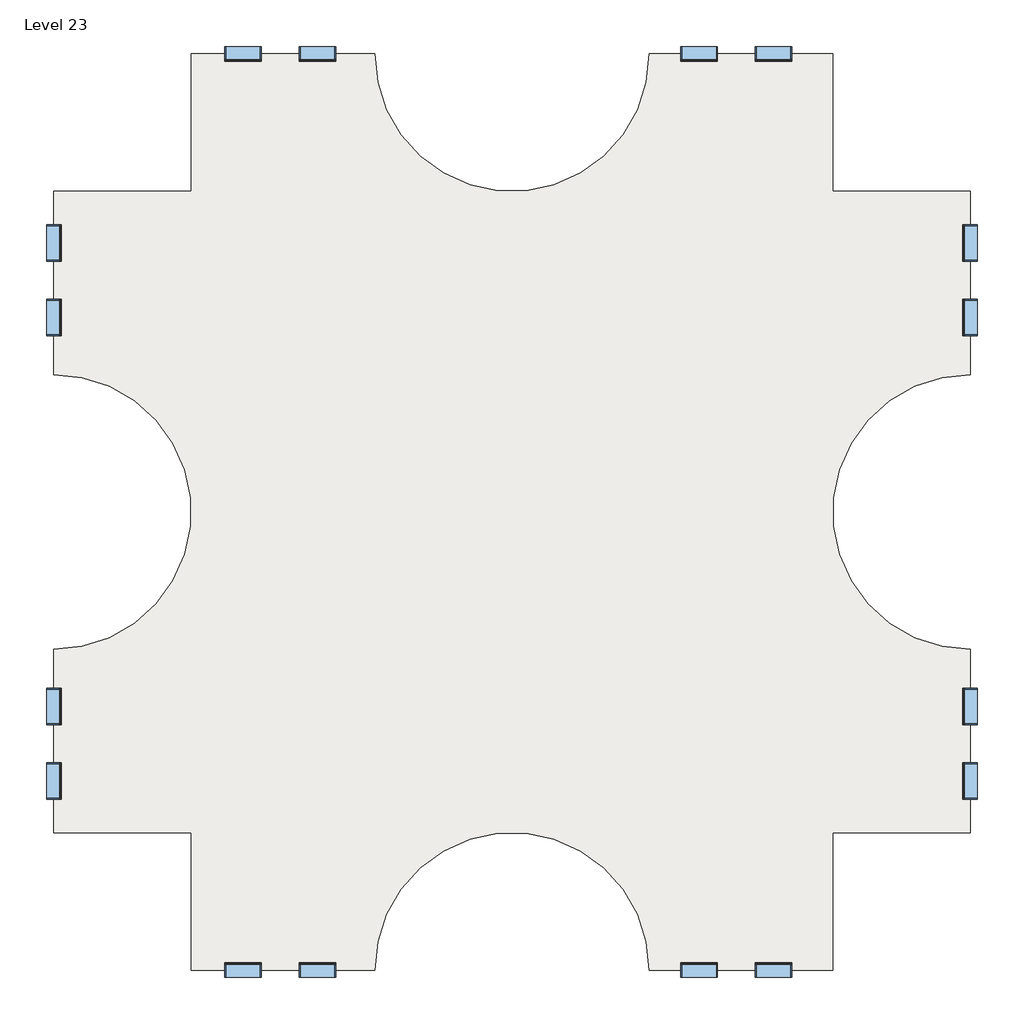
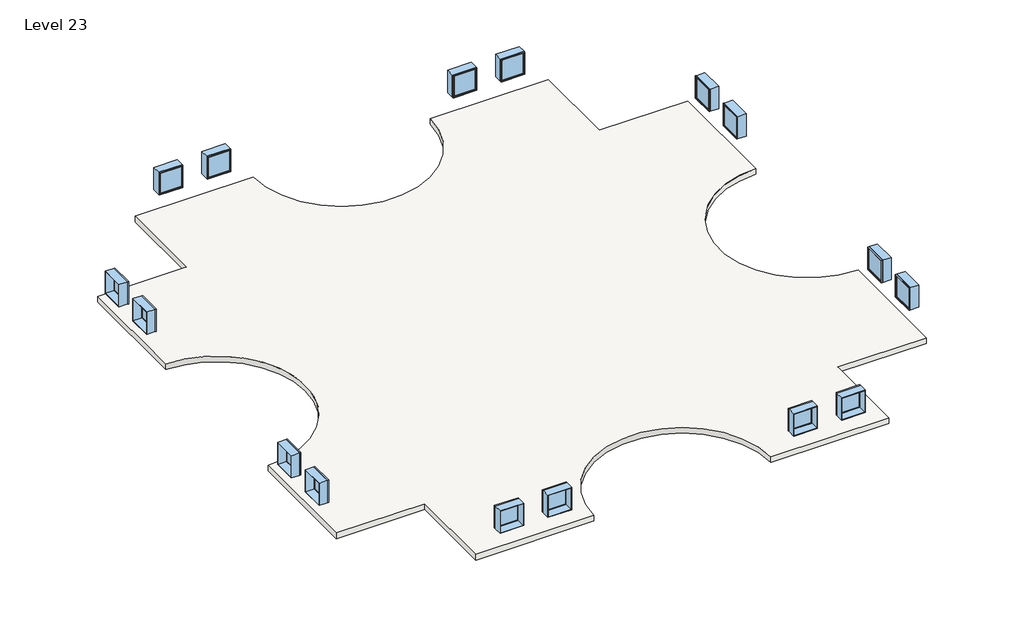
# One storey: 16 windows, 2 slabs.
"""IFC4 building model written with IfcOpenShell, lengths in millimetres."""

from ifc_helpers import new_model, si_unit, point, frame, frame_2d, origin, place, context, project, spatial, polyline, circle_curve, trimmed, segment, composite_curve, outline, extrude, transform, mapped, element, save
from components import window_d0035ecf, window_d434eb62

model = new_model("IFC4")

# Units and contexts
model_context = context("Model", 3, world=origin())
ifc_project = project(units=[si_unit("LENGTHUNIT", "METRE", prefix="MILLI")], contexts=[model_context])

# Site, building, storey
site = spatial("IfcSite", under=ifc_project)
building = spatial("IfcBuilding", under=site)
storey = spatial("IfcBuildingStorey", under=building, Name="Level 23", Elevation=67056.0)

# Slabs
placement = place(None, origin())
element("IfcSlab", 1, ObjectType="Generic - 12\"", at=placement, inside=storey, context=model_context, shape_type="SweptSolid", body=[
    extrude(outline(composite_curve([segment(polyline([(-7150.3629456, 4479.6634547), (-7150.3629456, 9051.6634547), (-1054.3629456, 9051.6634547)]), True, "CONTINUOUS"), segment(trimmed(circle_curve(frame_2d((3517.6370544, 9051.6634547)), 4572.0), [point((-1054.3629456, 9051.6634547))], [point((8089.6370544, 9051.6634547))], True, "CARTESIAN"), True, "CONTINUOUS"), segment(polyline([(8089.6370544, 9051.6634547), (14185.6370544, 9051.6634547), (14185.6370544, 4479.6634547), (18757.6370544, 4479.6634547), (18757.6370544, -1616.3365453)]), True, "CONTINUOUS"), segment(trimmed(circle_curve(frame_2d((18757.6370544, -6188.3365453)), 4572.0), [point((18757.6370544, -1616.3365453))], [point((18757.6370544, -10760.3365453))], True, "CARTESIAN"), True, "CONTINUOUS"), segment(polyline([(18757.6370544, -10760.3365453), (18757.6370544, -16856.3365453), (14185.6370544, -16856.3365453), (14185.6370544, -21428.3365453), (8089.6370544, -21428.3365453)]), True, "CONTINUOUS"), segment(trimmed(circle_curve(frame_2d((3517.6370544, -21428.3365453)), 4572.0), [point((8089.6370544, -21428.3365453))], [point((-1054.3629456, -21428.3365453))], True, "CARTESIAN"), True, "CONTINUOUS"), segment(polyline([(-1054.3629456, -21428.3365453), (-7150.3629456, -21428.3365453), (-7150.3629456, -16856.3365453), (-11722.3629456, -16856.3365453), (-11722.3629456, -10760.3365453)]), True, "CONTINUOUS"), segment(trimmed(circle_curve(frame_2d((-11722.3629456, -6188.3365453)), 4572.0), [point((-11722.3629456, -10760.3365453))], [point((-11722.3629456, -1616.3365453))], True, "CARTESIAN"), True, "CONTINUOUS"), segment(polyline([(-11722.3629456, -1616.3365453), (-11722.3629456, 4479.6634547), (-7150.3629456, 4479.6634547)]), True, "CONTINUOUS")], self_intersect=False)), frame((0.0, 0.0, 66751.2), z_axis=(0.0, 0.0, 1.0), x_axis=(1.0, 0.0, 0.0)), (0.0, 0.0, 1.0), 304.8),
])
element("IfcSlab", 2, ObjectType="Generic - 12\"", at=placement, inside=storey, context=model_context, shape_type="SweptSolid", body=[
    extrude(outline(composite_curve([segment(polyline([(-7150.3629456, 4479.6634547), (-7150.3629456, 9051.6634547), (-1054.3629456, 9051.6634547)]), True, "CONTINUOUS"), segment(trimmed(circle_curve(frame_2d((3517.6370544, 9051.6634547)), 4572.0), [point((-1054.3629456, 9051.6634547))], [point((8089.6370544, 9051.6634547))], True, "CARTESIAN"), True, "CONTINUOUS"), segment(polyline([(8089.6370544, 9051.6634547), (14185.6370544, 9051.6634547), (14185.6370544, 4479.6634547), (18757.6370544, 4479.6634547), (18757.6370544, -1616.3365453)]), True, "CONTINUOUS"), segment(trimmed(circle_curve(frame_2d((18757.6370544, -6188.3365453)), 4572.0), [point((18757.6370544, -1616.3365453))], [point((18757.6370544, -10760.3365453))], True, "CARTESIAN"), True, "CONTINUOUS"), segment(polyline([(18757.6370544, -10760.3365453), (18757.6370544, -16856.3365453), (14185.6370544, -16856.3365453), (14185.6370544, -21428.3365453), (8089.6370544, -21428.3365453)]), True, "CONTINUOUS"), segment(trimmed(circle_curve(frame_2d((3517.6370544, -21428.3365453)), 4572.0), [point((8089.6370544, -21428.3365453))], [point((-1054.3629456, -21428.3365453))], True, "CARTESIAN"), True, "CONTINUOUS"), segment(polyline([(-1054.3629456, -21428.3365453), (-7150.3629456, -21428.3365453), (-7150.3629456, -16856.3365453), (-11722.3629456, -16856.3365453), (-11722.3629456, -10760.3365453)]), True, "CONTINUOUS"), segment(trimmed(circle_curve(frame_2d((-11722.3629456, -6188.3365453)), 4572.0), [point((-11722.3629456, -10760.3365453))], [point((-11722.3629456, -1616.3365453))], True, "CARTESIAN"), True, "CONTINUOUS"), segment(polyline([(-11722.3629456, -1616.3365453), (-11722.3629456, 4479.6634547), (-7150.3629456, 4479.6634547)]), True, "CONTINUOUS")], self_intersect=False)), frame((0.0, 0.0, 66751.2), z_axis=(0.0, 0.0, 1.0), x_axis=(1.0, 0.0, 0.0)), (0.0, 0.0, 1.0), 304.8),
])

# Windows
window_shape = window_d0035ecf(model_context)
element("IfcWindow", 3, ObjectType="Fixed : 48\" x 48\"", at=placement, inside=storey, context=model_context, shape_type="MappedRepresentation", body=[
    mapped(window_shape, transform((-11719.1879456, 247.3884547, 67056.0), x_axis=(0.0, -1.0, 0.0), y_axis=(1.0, 0.0, 0.0), z_axis=(0.0, 0.0, 1.0))),
])
element("IfcWindow", 4, ObjectType="Fixed : 48\" x 48\"", at=placement, inside=storey, context=model_context, shape_type="MappedRepresentation", body=[
    mapped(window_shape, transform((-5469.1993281, 9048.4884547, 67056.0), x_axis=(-1.0, 0.0, 0.0), y_axis=(0.0, -1.0, 0.0), z_axis=(0.0, 0.0, 1.0))),
])
element("IfcWindow", 5, ObjectType="Fixed : 48\" x 48\"", at=placement, inside=storey, context=model_context, shape_type="MappedRepresentation", body=[
    mapped(window_shape, transform((-11719.1879456, -15175.1729277, 67056.0), x_axis=(0.0, -1.0, 0.0), y_axis=(1.0, 0.0, 0.0), z_axis=(0.0, 0.0, 1.0))),
])
element("IfcWindow", 6, ObjectType="Fixed : 48\" x 48\"", at=placement, inside=storey, context=model_context, shape_type="MappedRepresentation", body=[
    mapped(window_shape, transform((-2918.0879456, -21425.1615453, 67056.0), x_axis=(1.0, 0.0, 0.0), y_axis=(0.0, 1.0, 0.0), z_axis=(0.0, 0.0, 1.0))),
])
element("IfcWindow", 7, ObjectType="Fixed : 48\" x 48\"", at=placement, inside=storey, context=model_context, shape_type="MappedRepresentation", body=[
    mapped(window_shape, transform((18754.4620544, 2798.4998372, 67056.0), x_axis=(0.0, 1.0, 0.0), y_axis=(-1.0, 0.0, 0.0), z_axis=(0.0, 0.0, 1.0))),
])
element("IfcWindow", 8, ObjectType="Fixed : 48\" x 48\"", at=placement, inside=storey, context=model_context, shape_type="MappedRepresentation", body=[
    mapped(window_shape, transform((9705.7120544, 9048.4884547, 67056.0), x_axis=(-1.0, 0.0, 0.0), y_axis=(0.0, -1.0, 0.0), z_axis=(0.0, 0.0, 1.0))),
])
element("IfcWindow", 9, ObjectType="Fixed : 48\" x 48\"", at=placement, inside=storey, context=model_context, shape_type="MappedRepresentation", body=[
    mapped(window_shape, transform((18754.4620544, -12624.0615453, 67056.0), x_axis=(0.0, 1.0, 0.0), y_axis=(-1.0, 0.0, 0.0), z_axis=(0.0, 0.0, 1.0))),
])
element("IfcWindow", 10, ObjectType="Fixed : 48\" x 48\"", at=placement, inside=storey, context=model_context, shape_type="MappedRepresentation", body=[
    mapped(window_shape, transform((12256.8234368, -21425.1615453, 67056.0), x_axis=(1.0, 0.0, 0.0), y_axis=(0.0, 1.0, 0.0), z_axis=(0.0, 0.0, 1.0))),
])
window_2_shape = window_d434eb62(model_context)
element("IfcWindow", 11, ObjectType="Fixed : 48\" x 48\"", at=placement, inside=storey, context=model_context, shape_type="MappedRepresentation", body=[
    mapped(window_2_shape, transform((-11719.1879456, 2798.4998372, 67056.0), x_axis=(0.0, 1.0, 0.0), y_axis=(-1.0, 0.0, 0.0), z_axis=(0.0, 0.0, 1.0))),
])
element("IfcWindow", 12, ObjectType="Fixed : 48\" x 48\"", at=placement, inside=storey, context=model_context, shape_type="MappedRepresentation", body=[
    mapped(window_2_shape, transform((-2918.0879456, 9048.4884547, 67056.0), x_axis=(1.0, 0.0, 0.0), y_axis=(0.0, 1.0, 0.0), z_axis=(0.0, 0.0, 1.0))),
])
element("IfcWindow", 13, ObjectType="Fixed : 48\" x 48\"", at=placement, inside=storey, context=model_context, shape_type="MappedRepresentation", body=[
    mapped(window_2_shape, transform((-11719.1879456, -12624.0615453, 67056.0), x_axis=(0.0, 1.0, 0.0), y_axis=(-1.0, 0.0, 0.0), z_axis=(0.0, 0.0, 1.0))),
])
element("IfcWindow", 14, ObjectType="Fixed : 48\" x 48\"", at=placement, inside=storey, context=model_context, shape_type="MappedRepresentation", body=[
    mapped(window_2_shape, transform((-5469.1993281, -21425.1615453, 67056.0), x_axis=(-1.0, 0.0, 0.0), y_axis=(0.0, -1.0, 0.0), z_axis=(0.0, 0.0, 1.0))),
])
element("IfcWindow", 15, ObjectType="Fixed : 48\" x 48\"", at=placement, inside=storey, context=model_context, shape_type="MappedRepresentation", body=[
    mapped(window_2_shape, transform((18754.4620544, 247.3884547, 67056.0), x_axis=(0.0, -1.0, 0.0), y_axis=(1.0, 0.0, 0.0), z_axis=(0.0, 0.0, 1.0))),
])
element("IfcWindow", 16, ObjectType="Fixed : 48\" x 48\"", at=placement, inside=storey, context=model_context, shape_type="MappedRepresentation", body=[
    mapped(window_2_shape, transform((12256.8234368, 9048.4884547, 67056.0), x_axis=(1.0, 0.0, 0.0), y_axis=(0.0, 1.0, 0.0), z_axis=(0.0, 0.0, 1.0))),
])
element("IfcWindow", 17, ObjectType="Fixed : 48\" x 48\"", at=placement, inside=storey, context=model_context, shape_type="MappedRepresentation", body=[
    mapped(window_2_shape, transform((18754.4620544, -15175.1729277, 67056.0), x_axis=(0.0, -1.0, 0.0), y_axis=(1.0, 0.0, 0.0), z_axis=(0.0, 0.0, 1.0))),
])
element("IfcWindow", 18, ObjectType="Fixed : 48\" x 48\"", at=placement, inside=storey, context=model_context, shape_type="MappedRepresentation", body=[
    mapped(window_2_shape, transform((9705.7120544, -21425.1615453, 67056.0), x_axis=(-1.0, 0.0, 0.0), y_axis=(0.0, -1.0, 0.0), z_axis=(0.0, 0.0, 1.0))),
])

save(model, "model.ifc")
